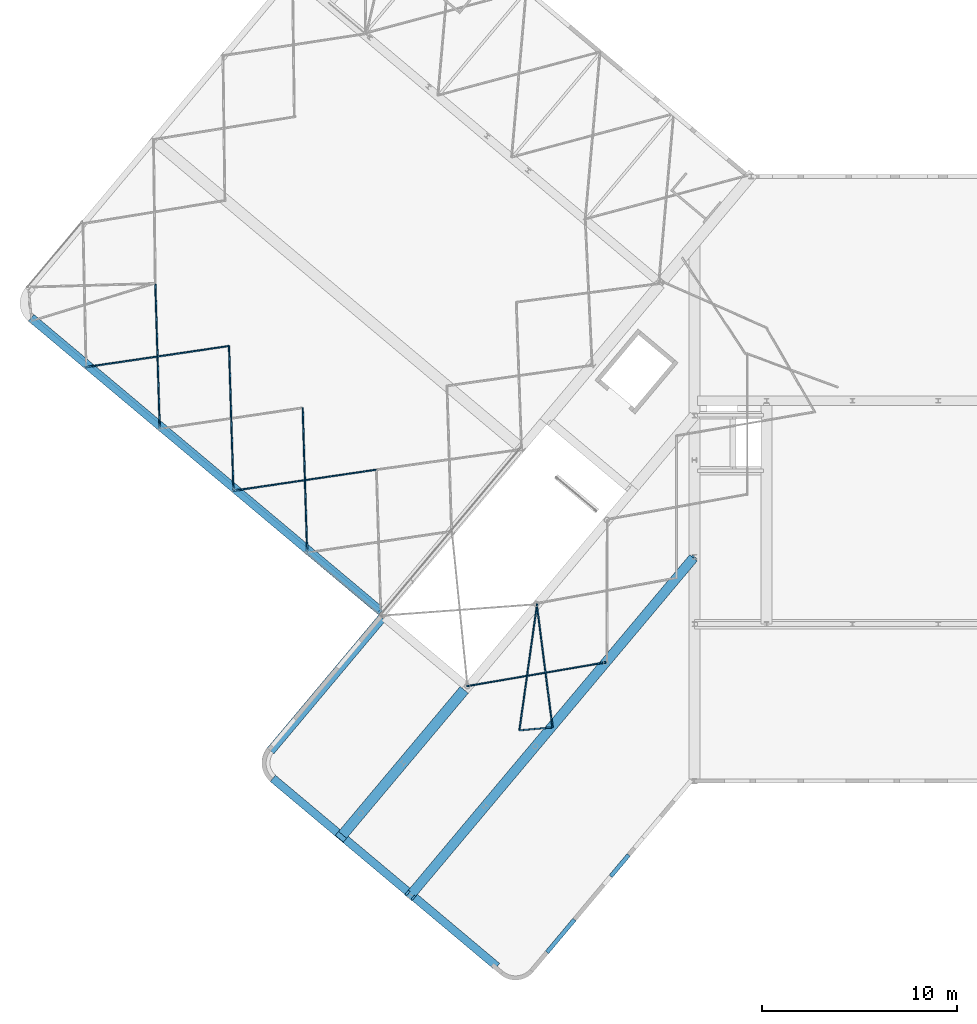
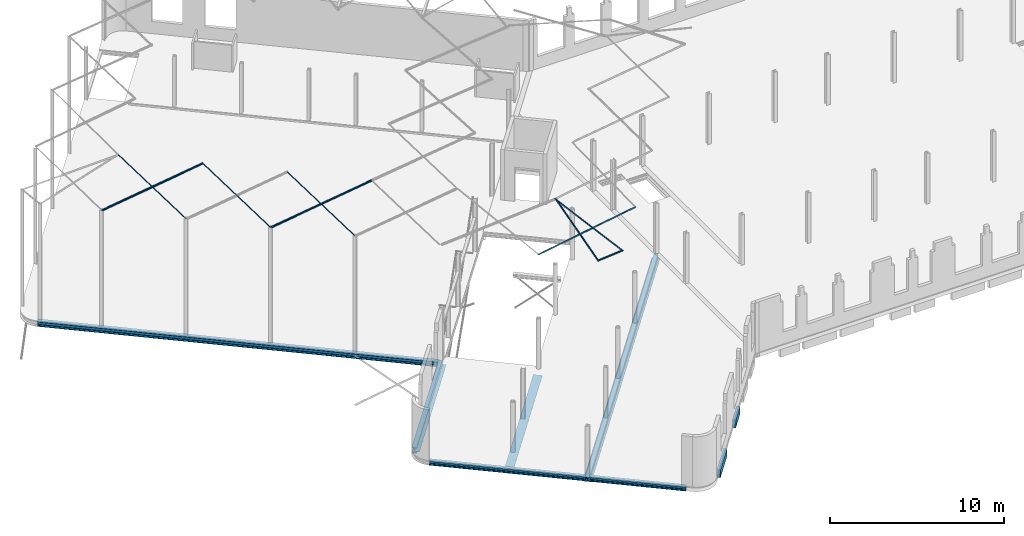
# One storey, part 12 of 25: 23 beams.
"""IFC2X3 building model written with IfcOpenShell, lengths in millimetres."""

import ifcopenshell
import ifcopenshell.guid

model = None  # the IFC model being written
_history = None  # IfcOwnerHistory: only IFC2X3 demands one
_inside = {}  # id of a spatial element -> (the spatial element, [elements in it])
_under = {}  # id of a project, library or spatial element -> (it, [spatial elements below it])
_declared = {}  # id of a project -> (the project, [libraries it declares])
_typed = {}  # id of a type object -> (the type object, [elements of that type])
_made_of = {}  # id of a material, layer set ... -> (it, [elements and type objects made of it])


def new_model(schema):
    """Start an empty IFC model of exactly this schema.

    Asked for "IFC4X3", IfcOpenShell would pick the latest addendum, in which some entities
    have other attributes; the version numbers below select the first issue.
    IFC2X3 requires an IfcOwnerHistory on every rooted entity: one is made here for all.
    """
    global model, _history
    if schema == "IFC4X3":
        model = ifcopenshell.file(schema_version=(4, 3, 0, 0))
    else:
        model = ifcopenshell.file(schema=schema)
    _inside.clear()
    _under.clear()
    _declared.clear()
    _typed.clear()
    _made_of.clear()
    _history = None
    if model.schema == "IFC2X3":
        org = make("IfcOrganization", Name="unknown")
        user = make(
            "IfcPersonAndOrganization",
            ThePerson=make("IfcPerson", FamilyName="unknown"),
            TheOrganization=org,
        )
        app = make(
            "IfcApplication",
            ApplicationDeveloper=org,
            Version="unknown",
            ApplicationFullName="unknown",
            ApplicationIdentifier="unknown",
        )
        _history = make(
            "IfcOwnerHistory",
            OwningUser=user,
            OwningApplication=app,
            ChangeAction="ADDED",
            CreationDate=0,
        )
    return model


def make(cls, **values):
    """One entity of the class cls with the attributes given. An attribute that is None is left unset."""
    return model.create_entity(
        cls, **{name: value for name, value in values.items() if value is not None}
    )


def entity(cls, *values):
    """Any entity or typed value of the class cls, its attributes in the order of the schema. None: left unset."""
    e = model.create_entity(cls)
    for i, value in enumerate(values):
        if value is not None:
            e[i] = value
    return e


def rooted(cls, **values):
    """An entity with a GlobalId (a new one), such as an element, a storey or a relation."""
    return make(cls, GlobalId=ifcopenshell.guid.new(), OwnerHistory=_history, **values)


def si_unit(unit_type, name, prefix=None):
    """IfcSIUnit, for example si_unit("LENGTHUNIT", "METRE", prefix="MILLI")."""
    return make("IfcSIUnit", UnitType=unit_type, Prefix=prefix, Name=name)


def converted_unit(unit_type, name, factor, base, dimensions=None, offset=None):
    """IfcConversionBasedUnit, such as the inch: factor (a typed value) times the base unit."""
    return make(
        "IfcConversionBasedUnit"
        if offset is None
        else "IfcConversionBasedUnitWithOffset",
        ConversionOffset=offset,
        Dimensions=None
        if dimensions is None
        else entity("IfcDimensionalExponents", *dimensions),
        UnitType=unit_type,
        Name=name,
        ConversionFactor=make(
            "IfcMeasureWithUnit", ValueComponent=factor, UnitComponent=base
        ),
    )


def derived_unit(unit_type, elements):
    """IfcDerivedUnit: a product of units, each with its exponent."""
    return make(
        "IfcDerivedUnit",
        Elements=[
            make("IfcDerivedUnitElement", Unit=unit, Exponent=power)
            for unit, power in elements
        ],
        UnitType=unit_type,
    )


def assignment(units):
    """IfcUnitAssignment: the units of a project."""
    return None if units is None else make("IfcUnitAssignment", Units=units)


def point(xyz):
    """IfcCartesianPoint."""
    return None if xyz is None else make("IfcCartesianPoint", Coordinates=xyz)


def direction(xyz):
    """IfcDirection."""
    return None if xyz is None else make("IfcDirection", DirectionRatios=xyz)


def frame(location, z_axis=None, x_axis=None):
    """IfcAxis2Placement3D, a coordinate frame: its origin and axes. An axis left out is left unset."""
    return make(
        "IfcAxis2Placement3D",
        Location=point(location),
        Axis=direction(z_axis),
        RefDirection=direction(x_axis),
    )


def frame_2d(location, x_axis=None):
    """IfcAxis2Placement2D, a coordinate frame in the plane: its origin and x axis."""
    return make(
        "IfcAxis2Placement2D", Location=point(location), RefDirection=direction(x_axis)
    )


def origin():
    """The frame at (0, 0, 0) with its axes left unset."""
    return frame((0.0, 0.0, 0.0))


def origin_2d_with_axis():
    """The frame at (0, 0) in the plane with the x axis (1, 0) written out."""
    return frame_2d((0.0, 0.0), x_axis=(1.0, 0.0))


def place(relative_to, where):
    """IfcLocalPlacement: puts the frame where relative to a parent placement (None: the world)."""
    return make(
        "IfcLocalPlacement", PlacementRelTo=relative_to, RelativePlacement=where
    )


def context(
    kind, dimensions, precision=None, world=None, true_north=None, identifier=None
):
    """IfcGeometricRepresentationContext, for example the 3D "Model" context."""
    return make(
        "IfcGeometricRepresentationContext",
        ContextIdentifier=identifier,
        ContextType=kind,
        CoordinateSpaceDimension=dimensions,
        Precision=precision,
        WorldCoordinateSystem=world,
        TrueNorth=true_north,
    )


def subcontext(parent, identifier, kind, view, scale=None):
    """IfcGeometricRepresentationSubContext, for example "Body" below "Model"."""
    return make(
        "IfcGeometricRepresentationSubContext",
        ContextIdentifier=identifier,
        ContextType=kind,
        ParentContext=parent,
        TargetScale=scale,
        TargetView=view,
    )


def project(units=None, contexts=None):
    """IfcProject with its units and contexts."""
    return rooted(
        "IfcProject",
        Name="project",
        RepresentationContexts=contexts,
        UnitsInContext=assignment(units),
    )


def spatial(cls, under=None, at=None, **own):
    """A site, building, storey or space (cls), placed at a placement, below another one or the project."""
    s = rooted(cls, ObjectPlacement=at, **own)
    if under is not None:
        _under.setdefault(under.id(), (under, []))[1].append(s)
    return s


def polyline(points):
    """IfcPolyline through the points."""
    return make("IfcPolyline", Points=[point(p) for p in points])


def circle_curve(where, radius):
    """IfcCircle in the frame where."""
    return make("IfcCircle", Position=where, Radius=radius)


def parameter(value):
    """IfcParameterValue: where a trimmed curve begins or ends, as a parameter of its basis curve."""
    return model.create_entity("IfcParameterValue", value)


def trimmed(basis, trim1, trim2, sense, master):
    """IfcTrimmedCurve: the piece of a basis curve between two trims."""
    return make(
        "IfcTrimmedCurve",
        BasisCurve=basis,
        Trim1=trim1,
        Trim2=trim2,
        SenseAgreement=sense,
        MasterRepresentation=master,
    )


def segment(curve, same_sense, transition):
    """IfcCompositeCurveSegment."""
    return make(
        "IfcCompositeCurveSegment",
        Transition=transition,
        SameSense=same_sense,
        ParentCurve=curve,
    )


def composite_curve(segments, self_intersect=None):
    """IfcCompositeCurve: segments joined end to end."""
    return make("IfcCompositeCurve", Segments=segments, SelfIntersect=self_intersect)


def profile(cls, at=None, kind="AREA", **sizes):
    """A parametric profile (cls). Its sizes go by their IFC names, for example OverallWidth=200.0."""
    return make(cls, ProfileType=kind, Position=at, **sizes)


def rectangle(**sizes):
    """IfcRectangleProfileDef."""
    return profile("IfcRectangleProfileDef", **sizes)


def i_section(**sizes):
    """IfcIShapeProfileDef."""
    return profile("IfcIShapeProfileDef", **sizes)


def outline(outer, holes=None, kind="AREA"):
    """IfcArbitraryClosedProfileDef: a profile drawn as a closed curve; with holes, ...WithVoids."""
    if holes is None:
        return make("IfcArbitraryClosedProfileDef", ProfileType=kind, OuterCurve=outer)
    return make(
        "IfcArbitraryProfileDefWithVoids",
        ProfileType=kind,
        OuterCurve=outer,
        InnerCurves=holes,
    )


def extrude(swept, where, along, depth):
    """IfcExtrudedAreaSolid: the profile swept, set in the frame where, extruded along a direction by depth."""
    return make(
        "IfcExtrudedAreaSolid",
        SweptArea=swept,
        Position=where,
        ExtrudedDirection=direction(along),
        Depth=depth,
    )


def shape(context_of_items, identifier, shape_type, items):
    """IfcShapeRepresentation: the items that make up one representation, for example the "Body"."""
    return make(
        "IfcShapeRepresentation",
        ContextOfItems=context_of_items,
        RepresentationIdentifier=identifier,
        RepresentationType=shape_type,
        Items=items,
    )


def material(Name=None, Category=None):
    """IfcMaterial."""
    return make("IfcMaterial", Name=Name, Category=Category)


def made_of(thing, what):
    """Note that an element or type object is made of a material, layer set ...; save() writes the relation."""
    if what is not None:
        _made_of.setdefault(what.id(), (what, []))[1].append(thing)
    return thing


def type_object(cls, material=None, **own):
    """A type object (cls), such as IfcWallType, which elements share."""
    return made_of(rooted(cls, **own), material)


def element(
    cls,
    number,
    at=None,
    inside=None,
    cuts=None,
    type_object=None,
    material=None,
    context=None,
    identifier="Body",
    shape_type=None,
    held_by="IfcProductDefinitionShape",
    body=None,
    shapes=None,
    **own,
):
    """One element of the class cls, such as IfcWall. Its Tag is "e" and its number.

    at: its placement. inside: the storey or other place that contains it. cuts: it is an
    opening in that element (IfcRelVoidsElement). A single representation is given by context,
    identifier, shape_type and body (its items); several are given by shapes. held_by: the class
    of the entity that holds the representations. save() writes the other relations.
    """
    e = rooted(cls, Tag="e%d" % number, ObjectPlacement=at, **own)
    if body is not None:
        shapes = [shape(context, identifier, shape_type, body)]
    if shapes is not None:
        e.Representation = make(held_by, Representations=shapes)
    if inside is not None:
        _inside.setdefault(inside.id(), (inside, []))[1].append(e)
    if cuts is not None:
        rooted(
            "IfcRelVoidsElement", RelatingBuildingElement=cuts, RelatedOpeningElement=e
        )
    if type_object is not None:
        _typed.setdefault(type_object.id(), (type_object, []))[1].append(e)
    return made_of(e, material)


def aggregate(whole, parts):
    """IfcRelAggregates: a whole, such as a stair, and the parts it consists of."""
    return rooted("IfcRelAggregates", RelatingObject=whole, RelatedObjects=parts)


def save(model, path):
    """Write the relations noted so far, then the file.

    IfcRelAggregates (storeys below a building ...), IfcRelContainedInSpatialStructure (elements
    in a storey), IfcRelDefinesByType, IfcRelAssociatesMaterial and IfcRelDeclares: one each for
    every whole, place, type object, material and project.
    """
    for whole, parts in _under.values():
        aggregate(whole, parts)
    for where, things in _inside.values():
        rooted(
            "IfcRelContainedInSpatialStructure",
            RelatedElements=things,
            RelatingStructure=where,
        )
    for kind, things in _typed.values():
        rooted("IfcRelDefinesByType", RelatedObjects=things, RelatingType=kind)
    for what, things in _made_of.values():
        rooted("IfcRelAssociatesMaterial", RelatedObjects=things, RelatingMaterial=what)
    for by, libraries in _declared.values():
        rooted("IfcRelDeclares", RelatingContext=by, RelatedDefinitions=libraries)
    model.write(path)


model = new_model("IFC2X3")

# Units and contexts
model_context = context("Model", 3, precision=0.01, world=origin(), true_north=direction((6.123031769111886e-17, 1.0)))
body_context = subcontext(model_context, "Body", "Model", "MODEL_VIEW")
ifc_project = project(units=[si_unit("LENGTHUNIT", "METRE", prefix="MILLI"), si_unit("AREAUNIT", "SQUARE_METRE"), si_unit("VOLUMEUNIT", "CUBIC_METRE"), derived_unit("MASSDENSITYUNIT", [(si_unit("MASSUNIT", "GRAM", prefix="KILO"), 1), (si_unit("LENGTHUNIT", "METRE"), -3)]), si_unit("MASSUNIT", "GRAM", prefix="KILO"), converted_unit("PLANEANGLEUNIT", "DEGREE", entity("IfcPlaneAngleMeasure", 0.017453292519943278), si_unit("PLANEANGLEUNIT", "RADIAN"), dimensions=[0, 0, 0, 0, 0, 0, 0])], contexts=[model_context])

# Site, building, storey
site_placement = place(None, origin())
site = spatial("IfcSite", under=ifc_project, at=site_placement, Name="Default", CompositionType="ELEMENT")
building_placement = place(site_placement, origin())
building = spatial("IfcBuilding", under=site, at=building_placement, Name="AT constructie", CompositionType="ELEMENT")
storey_placement = place(building_placement, frame((0.0, 0.0, 3864.0)))
storey = spatial("IfcBuildingStorey", under=building, at=storey_placement, Name="01 eerste verdieping", CompositionType="ELEMENT", Elevation=3864.0)

# Beams
ifc_material_1 = material(Name="f2_beton_prefab_gen")
beam_type_1 = type_object("IfcBeamType", Name="balk vierkant_gen_214x544 pbl", PredefinedType="NOTDEFINED")
beam_1_placement = place(storey_placement, frame((34959.555795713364, 4468.489880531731, 0.0), z_axis=(0.0, 0.0, 1.0), x_axis=(-0.6427876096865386, -0.7660444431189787, 0.0)))
element("IfcBeam", 1, at=beam_1_placement, inside=storey, type_object=beam_type_1, material=ifc_material_1, Name="NLRS_28_SF_LIB_balk vierkant prefab_gen_AT:balk vierkant_gen_214x544 pbl", ObjectType="NLRS_28_SF_LIB_balk vierkant prefab_gen_AT:balk vierkant_gen_214x544 pbl", context=body_context, shape_type="SweptSolid", body=[
    extrude(rectangle(XDim=544.0000000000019, YDim=213.99999999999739, at=origin_2d_with_axis()), frame((-190.0, -107.0, -642.0), z_axis=(1.0, 0.0, 0.0), x_axis=(0.0, 0.0, -1.0)), (0.0, 0.0, 1.0), 2190.000000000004),
])
beam_2_placement = place(storey_placement, frame((37735.65178527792, 7776.912249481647, 0.0), z_axis=(0.0, 0.0, 1.0), x_axis=(-0.6427876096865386, -0.7660444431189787, 0.0)))
element("IfcBeam", 2, at=beam_2_placement, inside=storey, type_object=beam_type_1, material=ifc_material_1, Name="NLRS_28_SF_LIB_balk vierkant prefab_gen_AT:balk vierkant_gen_214x544 pbl", ObjectType="NLRS_28_SF_LIB_balk vierkant prefab_gen_AT:balk vierkant_gen_214x544 pbl", context=body_context, shape_type="SweptSolid", body=[
    extrude(rectangle(XDim=544.0000000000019, YDim=213.99999999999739, at=frame_2d((0.0, 4.369837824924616e-12), x_axis=(1.0, 0.0))), frame((-190.0, -107.0, -642.0), z_axis=(1.0, 0.0, 0.0), x_axis=(0.0, 0.0, -1.0)), (0.0, 0.0, 1.0), 1430.0000000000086),
])
ifc_material_2 = material(Name="h2_staal_S355")
beam_type_2 = type_object("IfcBeamType", Name="balk strip liggend_gen_500x15", PredefinedType="NOTDEFINED")
beam_3_placement = place(storey_placement, frame((26476.116333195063, 5792.8905509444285, 0.0), z_axis=(0.0, 0.0, 1.0), x_axis=(0.642787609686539, 0.7660444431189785, 0.0)))
element("IfcBeam", 3, at=beam_3_placement, inside=storey, type_object=beam_type_2, material=ifc_material_2, Name="NLRS_28_SF_LIB_balk strip_gen_AT:balk strip liggend_gen_500x15", ObjectType="NLRS_28_SF_LIB_balk strip_gen_AT:balk strip liggend_gen_500x15", context=body_context, shape_type="SweptSolid", body=[
    extrude(rectangle(XDim=14.999999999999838, YDim=499.9999999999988, at=frame_2d((0.0, -2.7000623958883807e-12), x_axis=(1.0, 0.0))), frame((6.095903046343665e-07, 0.0, -377.5000000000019), z_axis=(1.0, 0.0, 0.0), x_axis=(0.0, 0.0, -1.0)), (0.0, 0.0, 1.0), 22745.8620502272),
])
beam_type_3 = type_object("IfcBeamType", Name="balk HE_gen_HEB260", PredefinedType="NOTDEFINED")
beam_4_placement = place(storey_placement, frame((26482.54420929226, 5800.550995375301, 0.0), z_axis=(0.0, 0.0, 1.0), x_axis=(0.642787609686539, 0.7660444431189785, 0.0)))
element("IfcBeam", 4, at=beam_4_placement, inside=storey, type_object=beam_type_3, material=ifc_material_2, Name="NLRS_28_SF_LIB_balk HEB_gen_AT:balk HE_gen_HEB260", ObjectType="NLRS_28_SF_LIB_balk HEB_gen_AT:balk HE_gen_HEB260", context=body_context, shape_type="SweptSolid", body=[
    extrude(i_section(OverallWidth=260.00000000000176, OverallDepth=259.9999999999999, WebThickness=9.999999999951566, FlangeThickness=17.49999999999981, FilletRadius=24.000000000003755, at=frame_2d((2.7000623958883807e-13, -7.773337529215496e-12), x_axis=(0.0, 1.0))), frame((6.095951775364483e-07, 0.0, -240.0), z_axis=(1.0, 0.0, 0.0), x_axis=(0.0, 0.0, -1.0)), (0.0, 0.0, 1.0), 22819.482205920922),
])
beam_5_placement = place(storey_placement, frame((19508.156762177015, 11879.245094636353, 0.0), z_axis=(0.0, 0.0, 1.0), x_axis=(0.7660444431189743, -0.6427876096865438, 0.0)))
element("IfcBeam", 5, at=beam_5_placement, inside=storey, type_object=beam_type_3, material=ifc_material_2, Name="NLRS_28_SF_LIB_balk HEB_gen_AT:balk HE_gen_HEB260", ObjectType="NLRS_28_SF_LIB_balk HEB_gen_AT:balk HE_gen_HEB260", context=body_context, shape_type="SweptSolid", body=[
    extrude(i_section(OverallWidth=259.9999999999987, OverallDepth=259.9999999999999, WebThickness=10.000000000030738, FlangeThickness=17.49999999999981, FilletRadius=23.999999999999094, at=frame_2d((-2.7000623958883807e-13, -8.242295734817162e-13), x_axis=(0.0, 1.0))), frame((0.0, 0.0, -240.0), z_axis=(1.0, 0.0, 0.0), x_axis=(0.0, 0.0, -1.0)), (0.0, 0.0, 1.0), 9119.999998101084),
])
beam_6_placement = place(storey_placement, frame((26708.974526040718, 5837.041564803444, 0.0), z_axis=(0.0, 0.0, 1.0), x_axis=(0.7660444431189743, -0.6427876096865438, 0.0)))
element("IfcBeam", 6, at=beam_6_placement, inside=storey, type_object=beam_type_3, material=ifc_material_2, Name="NLRS_28_SF_LIB_balk HEB_gen_AT:balk HE_gen_HEB260", ObjectType="NLRS_28_SF_LIB_balk HEB_gen_AT:balk HE_gen_HEB260", context=body_context, shape_type="SweptSolid", body=[
    extrude(i_section(OverallWidth=260.0000000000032, OverallDepth=259.9999999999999, WebThickness=10.000000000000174, FlangeThickness=17.49999999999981, FilletRadius=24.000000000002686, at=frame_2d((-2.7000623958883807e-13, 3.0411229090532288e-12), x_axis=(0.0, 1.0))), frame((0.0, 0.0, -240.0), z_axis=(1.0, 0.0, 0.0), x_axis=(0.0, 0.0, -1.0)), (0.0, 0.0, 1.0), 5604.999999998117),
])
beam_type_4 = type_object("IfcBeamType", Name="balk strip liggend_gen_420x15", PredefinedType="NOTDEFINED")
beam_7_placement = place(storey_placement, frame((19540.296143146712, 11917.547316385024, 0.0), z_axis=(0.0, 0.0, 1.0), x_axis=(0.7660444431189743, -0.6427876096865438, 0.0)))
element("IfcBeam", 7, at=beam_7_placement, inside=storey, type_object=beam_type_4, material=ifc_material_2, Name="NLRS_28_SF_LIB_balk strip_gen_AT:balk strip liggend_gen_420x15", ObjectType="NLRS_28_SF_LIB_balk strip_gen_AT:balk strip liggend_gen_420x15", context=body_context, shape_type="SweptSolid", body=[
    extrude(rectangle(XDim=14.99999999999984, YDim=420.00000000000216, at=frame_2d((-5.417888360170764e-13, -6.963318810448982e-13), x_axis=(1.0, 0.0))), frame((0.0, 0.0, -377.50000000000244), z_axis=(1.0, 0.0, 0.0), x_axis=(0.0, 0.0, -1.0)), (0.0, 0.0, 1.0), 4329.999997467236),
])
beam_8_placement = place(storey_placement, frame((26817.71835083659, 5811.065025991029, 0.0), z_axis=(0.0, 0.0, 1.0), x_axis=(0.7660444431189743, -0.6427876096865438, 0.0)))
element("IfcBeam", 8, at=beam_8_placement, inside=storey, type_object=beam_type_4, material=ifc_material_2, Name="NLRS_28_SF_LIB_balk strip_gen_AT:balk strip liggend_gen_420x15", ObjectType="NLRS_28_SF_LIB_balk strip_gen_AT:balk strip liggend_gen_420x15", context=body_context, shape_type="SweptSolid", body=[
    extrude(rectangle(XDim=14.99999999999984, YDim=419.99999999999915, at=frame_2d((-5.413447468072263e-13, 3.979039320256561e-13), x_axis=(1.0, 0.0))), frame((0.0, 0.0, -377.50000000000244), z_axis=(1.0, 0.0, 0.0), x_axis=(0.0, 0.0, -1.0)), (0.0, 0.0, 1.0), 5504.999999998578),
])
beam_9_placement = place(storey_placement, frame((23064.10057955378, 8960.724313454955, 0.0), z_axis=(0.0, 0.0, 1.0), x_axis=(0.7660444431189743, -0.6427876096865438, 0.0)))
element("IfcBeam", 9, at=beam_9_placement, inside=storey, type_object=beam_type_4, material=ifc_material_2, Name="NLRS_28_SF_LIB_balk strip_gen_AT:balk strip liggend_gen_420x15", ObjectType="NLRS_28_SF_LIB_balk strip_gen_AT:balk strip liggend_gen_420x15", context=body_context, shape_type="SweptSolid", body=[
    extrude(rectangle(XDim=14.99999999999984, YDim=419.9999999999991, at=frame_2d((-5.413447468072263e-13, -8.242295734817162e-13), x_axis=(1.0, 0.0))), frame((270.0, 0.0, -377.50000000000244), z_axis=(1.0, 0.0, 0.0), x_axis=(0.0, 0.0, -1.0)), (0.0, 0.0, 1.0), 4129.999999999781),
])
beam_type_5 = type_object("IfcBeamType", Name="balk HE_gen_HEB320", PredefinedType="NOTDEFINED")
beam_10_placement = place(storey_placement, frame((7107.740540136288, 35469.04339525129, 0.0), z_axis=(0.0, 0.0, 1.0), x_axis=(0.7660444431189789, -0.6427876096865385, 0.0)))
element("IfcBeam", 10, at=beam_10_placement, inside=storey, type_object=beam_type_5, material=ifc_material_2, Name="NLRS_28_SF_LIB_balk HEB_gen_AT:balk HE_gen_HEB320", ObjectType="NLRS_28_SF_LIB_balk HEB_gen_AT:balk HE_gen_HEB320", context=body_context, shape_type="SweptSolid", body=[
    extrude(i_section(OverallWidth=299.99999999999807, OverallDepth=319.9999999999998, WebThickness=11.500000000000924, FlangeThickness=20.500000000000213, FilletRadius=27.000000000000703, at=frame_2d((-1.0942358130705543e-12, 4.718003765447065e-12), x_axis=(0.0, 1.0))), frame((0.0, 0.0, -431.0), z_axis=(1.0, 0.0, 0.0), x_axis=(0.0, 0.0, -1.0)), (0.0, 0.0, 1.0), 23437.499999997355),
])
beam_type_6 = type_object("IfcBeamType", Name="balk HE_gen_HEB400", PredefinedType="NOTDEFINED")
beam_11_placement = place(storey_placement, frame((19359.585975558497, 13374.588442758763, 0.0), z_axis=(0.0, 0.0, 1.0), x_axis=(0.642787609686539, 0.7660444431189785, 0.0)))
element("IfcBeam", 11, at=beam_11_placement, inside=storey, type_object=beam_type_6, material=ifc_material_2, Name="NLRS_28_SF_LIB_balk HEB_gen_AT:balk HE_gen_HEB400", ObjectType="NLRS_28_SF_LIB_balk HEB_gen_AT:balk HE_gen_HEB400", context=body_context, shape_type="SweptSolid", body=[
    extrude(i_section(OverallWidth=300.00000000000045, OverallDepth=400.0, WebThickness=13.500000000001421, FlangeThickness=23.999999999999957, FilletRadius=26.99999999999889, at=frame_2d((5.542233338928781e-13, -3.879563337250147e-12), x_axis=(0.0, 1.0))), frame((0.0, 0.0, -310.0), z_axis=(1.0, 0.0, 0.0), x_axis=(0.0, 0.0, -1.0)), (0.0, 0.0, 1.0), 8899.99999780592),
])
beam_type_7 = type_object("IfcBeamType", Name="balk strip liggend_gen_300x15", PredefinedType="NOTDEFINED")
beam_12_placement = place(storey_placement, frame((19479.663442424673, 13273.831485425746, 0.0), z_axis=(0.0, 0.0, 1.0), x_axis=(0.642787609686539, 0.7660444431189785, 0.0)))
element("IfcBeam", 12, at=beam_12_placement, inside=storey, type_object=beam_type_7, material=ifc_material_2, Name="NLRS_28_SF_LIB_balk strip_gen_AT:balk strip liggend_gen_300x15", ObjectType="NLRS_28_SF_LIB_balk strip_gen_AT:balk strip liggend_gen_300x15", context=body_context, shape_type="SweptSolid", body=[
    extrude(rectangle(XDim=14.999999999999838, YDim=299.9999999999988, at=origin_2d_with_axis()), frame((0.0, 0.0, -377.5000000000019), z_axis=(1.0, 0.0, 0.0), x_axis=(0.0, 0.0, -1.0)), (0.0, 0.0, 1.0), 8899.999997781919),
])
beam_type_8 = type_object("IfcBeamType", Name="balk strip liggend_gen_440x20", PredefinedType="NOTDEFINED")
beam_13_placement = place(storey_placement, frame((7152.735672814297, 35522.66650626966, 0.0), z_axis=(0.0, 0.0, 1.0), x_axis=(0.7660444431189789, -0.6427876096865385, 0.0)))
element("IfcBeam", 13, at=beam_13_placement, inside=storey, type_object=beam_type_8, material=ifc_material_2, Name="NLRS_28_SF_LIB_balk strip_gen_AT:balk strip liggend_gen_440x20", ObjectType="NLRS_28_SF_LIB_balk strip_gen_AT:balk strip liggend_gen_440x20", context=body_context, shape_type="SweptSolid", body=[
    extrude(rectangle(XDim=19.999999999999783, YDim=439.99999999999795, at=frame_2d((0.0, 2.3447910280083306e-12), x_axis=(1.0, 0.0))), frame((0.0, 0.0, -601.0), z_axis=(1.0, 0.0, 0.0), x_axis=(0.0, 0.0, -1.0)), (0.0, 0.0, 1.0), 23317.499999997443),
])
beam_type_9 = type_object("IfcBeamType", Name="balk strip liggend_gen_540x15", PredefinedType="NOTDEFINED")
beam_14_placement = place(storey_placement, frame((22929.115181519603, 8799.854980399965, 0.0), z_axis=(0.0, 0.0, 1.0), x_axis=(0.642787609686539, 0.7660444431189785, 0.0)))
element("IfcBeam", 14, at=beam_14_placement, inside=storey, type_object=beam_type_9, material=ifc_material_2, Name="NLRS_28_SF_LIB_balk strip_gen_AT:balk strip liggend_gen_540x15", ObjectType="NLRS_28_SF_LIB_balk strip_gen_AT:balk strip liggend_gen_540x15", context=body_context, shape_type="SweptSolid", body=[
    extrude(rectangle(XDim=14.999999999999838, YDim=540.0000000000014, at=origin_2d_with_axis()), frame((0.0, 0.0, -377.5000000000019), z_axis=(1.0, 0.0, 0.0), x_axis=(0.0, 0.0, -1.0)), (0.0, 0.0, 1.0), 9989.999999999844),
])
beam_type_10 = type_object("IfcBeamType", Name="balk_gen_K80x80x4", PredefinedType="NOTDEFINED")
beam_15_placement = place(storey_placement, frame((33857.40122837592, 14528.11225157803, 8019.8426642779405), z_axis=(-0.011293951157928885, -0.0010147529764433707, 0.9999357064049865), x_axis=(-0.9959237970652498, -0.08948300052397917, -0.011339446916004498)))
element("IfcBeam", 15, at=beam_15_placement, inside=storey, type_object=beam_type_10, material=ifc_material_2, Name="NLRS_28_SF_LIB_balk koker vierkant_gen_AT:balk_gen_K80x80x4", ObjectType="NLRS_28_SF_LIB_balk koker vierkant_gen_AT:balk_gen_K80x80x4", context=body_context, shape_type="SweptSolid", body=[
    extrude(outline(composite_curve([segment(polyline([(-31.0, -40.0), (31.0, -40.0)]), True, "CONTINUOUS"), segment(trimmed(circle_curve(frame_2d((31.0, -31.0), x_axis=(0.0, -1.0)), 9.0), [parameter(359.9999999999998)], [parameter(89.99999999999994)], True, "PARAMETER"), True, "CONTINUOUS"), segment(polyline([(40.0, -31.0), (40.0, 31.0)]), True, "CONTINUOUS"), segment(trimmed(circle_curve(frame_2d((31.0, 31.0), x_axis=(0.0, -1.0)), 9.0), [parameter(90.0000000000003)], [parameter(180.00000000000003)], True, "PARAMETER"), True, "CONTINUOUS"), segment(polyline([(31.0, 40.0), (-31.0, 40.0)]), True, "CONTINUOUS"), segment(trimmed(circle_curve(frame_2d((-31.0, 31.0), x_axis=(0.0, -1.0)), 9.0), [parameter(179.99999999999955)], [parameter(269.9999999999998)], True, "PARAMETER"), True, "CONTINUOUS"), segment(polyline([(-40.0, 31.0), (-40.0, -31.0)]), True, "CONTINUOUS"), segment(trimmed(circle_curve(frame_2d((-31.0, -31.0), x_axis=(0.0, -1.0)), 9.0), [parameter(270.0000000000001)], [parameter(1.0177774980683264e-13)], True, "PARAMETER"), True, "CONTINUOUS")], self_intersect=False), holes=[composite_curve([segment(trimmed(circle_curve(frame_2d((-31.0, 31.0), x_axis=(0.0, -1.0)), 5.0), [parameter(180.0000000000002)], [parameter(270.0000000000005)], True, "PARAMETER"), False, "CONTINUOUS"), segment(polyline([(-31.0, 36.0), (31.0, 36.0)]), True, "CONTINUOUS"), segment(trimmed(circle_curve(frame_2d((31.0, 31.0), x_axis=(0.0, -1.0)), 5.0), [parameter(90.0000000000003)], [parameter(179.99999999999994)], True, "PARAMETER"), False, "CONTINUOUS"), segment(polyline([(36.0, 31.0), (36.0, -31.0)]), True, "CONTINUOUS"), segment(trimmed(circle_curve(frame_2d((31.0, -31.0), x_axis=(0.0, -1.0)), 5.0), [parameter(2.0355549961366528e-13)], [parameter(90.00000000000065)], True, "PARAMETER"), False, "CONTINUOUS"), segment(polyline([(31.0, -36.0), (-31.0, -36.0)]), True, "CONTINUOUS"), segment(trimmed(circle_curve(frame_2d((-31.0, -31.0), x_axis=(0.0, -1.0)), 5.0), [parameter(269.99999999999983)], [parameter(1.5266662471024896e-13)], True, "PARAMETER"), False, "CONTINUOUS"), segment(polyline([(-36.0, -31.0), (-36.0, 31.0)]), True, "CONTINUOUS")], self_intersect=False)]), frame((0.0, -0.6771440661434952, -59.996178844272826), z_axis=(1.0, 0.0, 0.0), x_axis=(0.0, -0.01128573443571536, -0.9999363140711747)), (0.0, 0.0, 1.0), 1717.4571688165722),
])
beam_type_11 = type_object("IfcBeamType", Name="balk_gen_L70x70x7", PredefinedType="NOTDEFINED")
beam_16_placement = place(storey_placement, frame((13715.892025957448, 29852.316780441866, 8000.519610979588), z_axis=(0.0003661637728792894, -0.011928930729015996, 0.9999287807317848), x_axis=(-0.030678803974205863, 0.999458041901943, 0.011934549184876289)))
element("IfcBeam", 16, at=beam_16_placement, inside=storey, type_object=beam_type_11, material=ifc_material_2, Name="NLRS_28_SF_LIB_balk hoeklijn_gen_AT:balk_gen_L70x70x7", ObjectType="NLRS_28_SF_LIB_balk hoeklijn_gen_AT:balk_gen_L70x70x7", context=body_context, shape_type="SweptSolid", body=[
    extrude(outline(composite_curve([segment(polyline([(-26.444444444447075, -26.444444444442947), (43.55555555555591, -26.444444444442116)]), True, "CONTINUOUS"), segment(polyline([(43.55555555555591, -26.444444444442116), (43.55555555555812, -23.944444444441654)]), True, "CONTINUOUS"), segment(trimmed(circle_curve(frame_2d((39.05555555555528, -23.944444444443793), x_axis=(1.0, 0.0)), 4.500000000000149), [parameter(0.0)], [parameter(89.99999999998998)], True, "PARAMETER"), True, "CONTINUOUS"), segment(polyline([(39.05555555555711, -19.444444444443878), (-10.444444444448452, -19.44444444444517)]), True, "CONTINUOUS"), segment(trimmed(circle_curve(frame_2d((-10.44444444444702, -10.44444444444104), x_axis=(0.0, -1.0)), 9.000000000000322), [parameter(270.00000000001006)], [parameter(0.0)], True, "PARAMETER"), False, "CONTINUOUS"), segment(polyline([(-19.444444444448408, -10.444444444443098), (-19.44444444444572, 39.05555555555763)]), True, "CONTINUOUS"), segment(trimmed(circle_curve(frame_2d((-23.944444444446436, 39.055555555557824), x_axis=(1.0, 0.0)), 4.5000000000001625), [parameter(0.0)], [parameter(89.99999999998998)], True, "PARAMETER"), True, "CONTINUOUS"), segment(polyline([(-23.944444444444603, 43.55555555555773), (-26.44444444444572, 43.55555555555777)]), True, "CONTINUOUS"), segment(polyline([(-26.44444444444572, 43.55555555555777), (-26.444444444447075, -26.444444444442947)]), True, "CONTINUOUS")], self_intersect=False)), frame((0.0, -20.120489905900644, -63.34477837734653), z_axis=(1.0, 0.0, 0.0), x_axis=(0.0, 0.010654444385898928, 0.9999432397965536)), (0.0, 0.0, 1.0), 7403.062975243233),
])
beam_17_placement = place(storey_placement, frame((9939.292921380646, 33021.25969619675, 8000.519610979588), z_axis=(-0.011831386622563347, -0.0017413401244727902, 0.9999284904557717), x_axis=(0.989271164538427, 0.14560064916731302, 0.011958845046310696)))
element("IfcBeam", 17, at=beam_17_placement, inside=storey, type_object=beam_type_11, material=ifc_material_2, Name="NLRS_28_SF_LIB_balk hoeklijn_gen_AT:balk_gen_L70x70x7", ObjectType="NLRS_28_SF_LIB_balk hoeklijn_gen_AT:balk_gen_L70x70x7", context=body_context, shape_type="SweptSolid", body=[
    extrude(outline(composite_curve([segment(polyline([(-26.444444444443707, -26.444444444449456), (43.55555555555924, -26.444444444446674)]), True, "CONTINUOUS"), segment(polyline([(43.55555555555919, -26.444444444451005), (43.55555555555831, -23.944444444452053)]), True, "CONTINUOUS"), segment(trimmed(circle_curve(frame_2d((39.05555555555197, -23.944444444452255), x_axis=(1.0, 0.0)), 4.500000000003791), [parameter(0.0)], [parameter(89.99999999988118)], True, "PARAMETER"), True, "CONTINUOUS"), segment(polyline([(39.05555555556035, -19.444444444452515), (-10.444444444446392, -19.44444444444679)]), True, "CONTINUOUS"), segment(trimmed(circle_curve(frame_2d((-10.444444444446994, -10.444444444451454), x_axis=(0.0, -1.0)), 8.999999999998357), [parameter(269.99999999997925)], [parameter(0.0)], True, "PARAMETER"), False, "CONTINUOUS"), segment(polyline([(-19.444444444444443, -10.444444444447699), (-19.444444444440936, 39.05555555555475)]), True, "CONTINUOUS"), segment(trimmed(circle_curve(frame_2d((-23.944444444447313, 39.0555555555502), x_axis=(1.0, 0.0)), 4.500000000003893), [parameter(0.0)], [parameter(89.99999999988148)], True, "PARAMETER"), True, "CONTINUOUS"), segment(polyline([(-23.944444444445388, 43.55555555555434), (-26.444444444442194, 43.55555555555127)]), True, "CONTINUOUS"), segment(polyline([(-26.444444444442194, 43.55555555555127), (-26.444444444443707, -26.444444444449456)]), True, "CONTINUOUS")], self_intersect=False)), frame((0.0, -18.767930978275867, -63.7586059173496), z_axis=(1.0, 0.0, 0.0), x_axis=(0.0, -0.010627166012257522, 0.9999435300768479)), (0.0, 0.0, 1.0), 7422.067704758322),
])
beam_18_placement = place(storey_placement, frame((17492.491130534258, 26683.373864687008, 8000.519610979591), z_axis=(0.0003661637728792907, -0.011928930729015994, 0.9999287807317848), x_axis=(-0.030678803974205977, 0.999458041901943, 0.011934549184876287)))
element("IfcBeam", 18, at=beam_18_placement, inside=storey, type_object=beam_type_11, material=ifc_material_2, Name="NLRS_28_SF_LIB_balk hoeklijn_gen_AT:balk_gen_L70x70x7", ObjectType="NLRS_28_SF_LIB_balk hoeklijn_gen_AT:balk_gen_L70x70x7", context=body_context, shape_type="SweptSolid", body=[
    extrude(outline(composite_curve([segment(polyline([(-26.444444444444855, -26.44444444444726), (43.555555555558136, -26.444444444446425)]), True, "CONTINUOUS"), segment(polyline([(43.555555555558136, -26.444444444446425), (43.555555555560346, -23.944444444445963)]), True, "CONTINUOUS"), segment(trimmed(circle_curve(frame_2d((39.0555555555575, -23.944444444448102), x_axis=(1.0, 0.0)), 4.500000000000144), [parameter(0.0)], [parameter(89.99999999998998)], True, "PARAMETER"), True, "CONTINUOUS"), segment(polyline([(39.055555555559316, -19.44444444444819), (-10.444444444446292, -19.44444444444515)]), True, "CONTINUOUS"), segment(trimmed(circle_curve(frame_2d((-10.444444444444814, -10.444444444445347), x_axis=(0.0, -1.0)), 9.000000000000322), [parameter(270.00000000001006)], [parameter(0.0)], True, "PARAMETER"), False, "CONTINUOUS"), segment(polyline([(-19.444444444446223, -10.444444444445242), (-19.44444444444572, 39.05555555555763)]), True, "CONTINUOUS"), segment(trimmed(circle_curve(frame_2d((-23.944444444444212, 39.055555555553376), x_axis=(1.0, 0.0)), 4.500000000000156), [parameter(0.0)], [parameter(89.99999999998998)], True, "PARAMETER"), True, "CONTINUOUS"), segment(polyline([(-23.944444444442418, 43.55555555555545), (-26.444444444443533, 43.555555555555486)]), True, "CONTINUOUS"), segment(polyline([(-26.444444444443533, 43.555555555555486), (-26.444444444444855, -26.44444444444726)]), True, "CONTINUOUS")], self_intersect=False)), frame((0.0, -20.120489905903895, -63.34477837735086), z_axis=(1.0, 0.0, 0.0), x_axis=(0.0, 0.01065444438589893, 0.9999432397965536)), (0.0, 0.0, 1.0), 7403.062975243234),
])
beam_19_placement = place(storey_placement, frame((21269.09023511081, 23514.430948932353, 8000.5196109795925), z_axis=(0.000366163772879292, -0.011928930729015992, 0.9999287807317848), x_axis=(-0.030678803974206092, 0.999458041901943, 0.011934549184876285)))
element("IfcBeam", 19, at=beam_19_placement, inside=storey, type_object=beam_type_11, material=ifc_material_2, Name="NLRS_28_SF_LIB_balk hoeklijn_gen_AT:balk_gen_L70x70x7", ObjectType="NLRS_28_SF_LIB_balk hoeklijn_gen_AT:balk_gen_L70x70x7", context=body_context, shape_type="SweptSolid", body=[
    extrude(outline(composite_curve([segment(polyline([(-26.444444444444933, -26.444444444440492), (43.55555555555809, -26.444444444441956)]), True, "CONTINUOUS"), segment(polyline([(43.555555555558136, -26.444444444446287), (43.55555555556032, -23.94444444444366)]), True, "CONTINUOUS"), segment(trimmed(circle_curve(frame_2d((39.05555555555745, -23.944444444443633), x_axis=(1.0, 0.0)), 4.4999999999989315), [parameter(0.0)], [parameter(89.99999999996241)], True, "PARAMETER"), True, "CONTINUOUS"), segment(polyline([(39.055555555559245, -19.444444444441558), (-10.444444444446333, -19.44444444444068)]), True, "CONTINUOUS"), segment(trimmed(circle_curve(frame_2d((-10.444444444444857, -10.444444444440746), x_axis=(0.0, -1.0)), 9.000000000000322), [parameter(270.00000000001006)], [parameter(0.0)], True, "PARAMETER"), False, "CONTINUOUS"), segment(polyline([(-19.444444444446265, -10.44444444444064), (-19.4444444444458, 39.055555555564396)]), True, "CONTINUOUS"), segment(trimmed(circle_curve(frame_2d((-23.9444444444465, 39.05555555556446), x_axis=(1.0, 0.0)), 4.500000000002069), [parameter(0.0)], [parameter(89.99999999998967)], True, "PARAMETER"), True, "CONTINUOUS"), segment(polyline([(-23.944444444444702, 43.55555555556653), (-26.444444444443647, 43.555555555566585)]), True, "CONTINUOUS"), segment(polyline([(-26.444444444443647, 43.555555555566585), (-26.44444444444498, -26.44444444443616)]), True, "CONTINUOUS")], self_intersect=False)), frame((0.0, -20.120489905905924, -63.344778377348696), z_axis=(1.0, 0.0, 0.0), x_axis=(0.0, 0.010654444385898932, 0.9999432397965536)), (0.0, 0.0, 1.0), 7403.062975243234),
])
beam_20_placement = place(storey_placement, frame((17492.49113053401, 26683.37386468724, 8000.5196109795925), z_axis=(-0.01183138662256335, -0.0017413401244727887, 0.9999284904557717), x_axis=(0.989271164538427, 0.14560064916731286, 0.0119588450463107)))
element("IfcBeam", 20, at=beam_20_placement, inside=storey, type_object=beam_type_11, material=ifc_material_2, Name="NLRS_28_SF_LIB_balk hoeklijn_gen_AT:balk_gen_L70x70x7", ObjectType="NLRS_28_SF_LIB_balk hoeklijn_gen_AT:balk_gen_L70x70x7", context=body_context, shape_type="SweptSolid", body=[
    extrude(outline(composite_curve([segment(polyline([(-26.444444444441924, -26.444444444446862), (43.55555555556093, -26.44444444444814)]), True, "CONTINUOUS"), segment(polyline([(43.55555555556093, -26.44444444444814), (43.55555555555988, -23.944444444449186)]), True, "CONTINUOUS"), segment(trimmed(circle_curve(frame_2d((39.055555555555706, -23.944444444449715), x_axis=(1.0, 0.0)), 4.500000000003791), [parameter(0.0)], [parameter(89.99999999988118)], True, "PARAMETER"), True, "CONTINUOUS"), segment(polyline([(39.055555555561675, -19.444444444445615), (-10.444444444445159, -19.44444444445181)]), True, "CONTINUOUS"), segment(trimmed(circle_curve(frame_2d((-10.444444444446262, -10.44444444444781), x_axis=(0.0, -1.0)), 8.999999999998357), [parameter(269.99999999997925)], [parameter(0.0)], True, "PARAMETER"), False, "CONTINUOUS"), segment(polyline([(-19.444444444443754, -10.444444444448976), (-19.44444444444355, 39.05555555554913)]), True, "CONTINUOUS"), segment(trimmed(circle_curve(frame_2d((-23.944444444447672, 39.05555555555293), x_axis=(1.0, 0.0)), 4.500000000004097), [parameter(0.0)], [parameter(89.99999999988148)], True, "PARAMETER"), True, "CONTINUOUS"), segment(polyline([(-23.944444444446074, 43.55555555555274), (-26.44444444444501, 43.555555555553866)]), True, "CONTINUOUS"), segment(polyline([(-26.44444444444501, 43.555555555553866), (-26.444444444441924, -26.444444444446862)]), True, "CONTINUOUS")], self_intersect=False)), frame((0.0, -18.767930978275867, -63.7586059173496), z_axis=(1.0, 0.0, 0.0), x_axis=(0.0, -0.010627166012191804, 0.9999435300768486)), (0.0, 0.0, 1.0), 7422.067704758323),
])
beam_21_placement = place(storey_placement, frame((33846.10741180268, 14529.432181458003, 8019.7426898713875), z_axis=(0.001377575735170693, -0.010763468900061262, 0.9999411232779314), x_axis=(-0.12694321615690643, 0.9918506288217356, 0.010851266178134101)))
element("IfcBeam", 21, at=beam_21_placement, inside=storey, type_object=beam_type_11, material=ifc_material_2, Name="NLRS_28_SF_LIB_balk hoeklijn_gen_AT:balk_gen_L70x70x7", ObjectType="NLRS_28_SF_LIB_balk hoeklijn_gen_AT:balk_gen_L70x70x7", context=body_context, shape_type="SweptSolid", body=[
    extrude(outline(composite_curve([segment(polyline([(-26.444444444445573, -26.444444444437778), (43.55555555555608, -26.444444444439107)]), True, "CONTINUOUS"), segment(polyline([(43.55555555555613, -26.444444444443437), (43.55555555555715, -23.944444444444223)]), True, "CONTINUOUS"), segment(trimmed(circle_curve(frame_2d((39.05555555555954, -23.944444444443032), x_axis=(1.0, 0.0)), 4.499999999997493), [parameter(0.0)], [parameter(90.00000000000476)], True, "PARAMETER"), True, "CONTINUOUS"), segment(polyline([(39.05555555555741, -19.444444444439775), (-10.444444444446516, -19.444444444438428)]), True, "CONTINUOUS"), segment(trimmed(circle_curve(frame_2d((-10.444444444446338, -10.444444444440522), x_axis=(0.0, -1.0)), 9.00000000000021), [parameter(270.00000000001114)], [parameter(0.0)], True, "PARAMETER"), False, "CONTINUOUS"), segment(polyline([(-19.444444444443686, -10.444444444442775), (-19.444444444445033, 39.055555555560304)]), True, "CONTINUOUS"), segment(trimmed(circle_curve(frame_2d((-23.944444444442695, 39.05555555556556), x_axis=(1.0, 0.0)), 4.499999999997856), [parameter(0.0)], [parameter(90.00000000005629)], True, "PARAMETER"), True, "CONTINUOUS"), segment(polyline([(-23.944444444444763, 43.55555555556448), (-26.444444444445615, 43.55555555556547)]), True, "CONTINUOUS"), segment(polyline([(-26.444444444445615, 43.55555555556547), (-26.444444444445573, -26.444444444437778)]), True, "CONTINUOUS")], self_intersect=False)), frame((0.0, -20.190252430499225, -63.322577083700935), z_axis=(1.0, 0.0, 0.0), x_axis=(0.0, 0.011755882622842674, 0.9999308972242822)), (0.0, 0.0, 1.0), 6378.346001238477),
])
beam_22_placement = place(storey_placement, frame((36623.34450764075, 17839.214467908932, 8088.872512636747), z_axis=(-0.012032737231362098, -0.002065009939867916, 0.9999254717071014), x_axis=(-0.9855180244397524, -0.16913063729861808, -0.012208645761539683)))
element("IfcBeam", 22, at=beam_22_placement, inside=storey, type_object=beam_type_11, material=ifc_material_2, Name="NLRS_28_SF_LIB_balk hoeklijn_gen_AT:balk_gen_L70x70x7", ObjectType="NLRS_28_SF_LIB_balk hoeklijn_gen_AT:balk_gen_L70x70x7", context=body_context, shape_type="SweptSolid", body=[
    extrude(outline(composite_curve([segment(polyline([(-26.44444444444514, -26.444444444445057), (43.55555555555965, -26.444444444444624)]), True, "CONTINUOUS"), segment(polyline([(43.55555555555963, -26.44444444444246), (43.55555555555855, -23.944444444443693)]), True, "CONTINUOUS"), segment(trimmed(circle_curve(frame_2d((39.055555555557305, -23.944444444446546), x_axis=(1.0, 0.0)), 4.500000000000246), [parameter(0.0)], [parameter(89.99999999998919)], True, "PARAMETER"), True, "CONTINUOUS"), segment(polyline([(39.05555555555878, -19.444444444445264), (-10.44444444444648, -19.44444444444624)]), True, "CONTINUOUS"), segment(trimmed(circle_curve(frame_2d((-10.44444444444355, -10.444444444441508), x_axis=(0.0, -1.0)), 9.000000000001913), [parameter(270.0000000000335)], [parameter(0.0)], True, "PARAMETER"), False, "CONTINUOUS"), segment(polyline([(-19.444444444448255, -10.444444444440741), (-19.444444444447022, 39.05555555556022)]), True, "CONTINUOUS"), segment(trimmed(circle_curve(frame_2d((-23.94444444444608, 39.055555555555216), x_axis=(1.0, 0.0)), 4.499999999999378), [parameter(0.0)], [parameter(89.99999999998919)], True, "PARAMETER"), True, "CONTINUOUS"), segment(polyline([(-23.94444444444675, 43.555555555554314), (-26.444444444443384, 43.55555555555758)]), True, "CONTINUOUS"), segment(polyline([(-26.444444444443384, 43.55555555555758), (-26.44444444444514, -26.444444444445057)]), True, "CONTINUOUS")], self_intersect=False)), frame((0.0, -20.10051971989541, -63.351118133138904), z_axis=(1.0, 0.0, 0.0), x_axis=(0.0, 0.01033921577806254, 0.9999465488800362)), (0.0, 0.0, 1.0), 7236.912544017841),
])
beam_23_placement = place(storey_placement, frame((32146.94476351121, 14374.429030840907, 8000.367649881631), z_axis=(-0.0018818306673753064, -0.013432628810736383, 0.9999080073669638), x_axis=(0.1387263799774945, 0.9902378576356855, 0.013563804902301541)))
element("IfcBeam", 23, at=beam_23_placement, inside=storey, type_object=beam_type_11, material=ifc_material_2, Name="NLRS_28_SF_LIB_balk hoeklijn_gen_AT:balk_gen_L70x70x7", ObjectType="NLRS_28_SF_LIB_balk hoeklijn_gen_AT:balk_gen_L70x70x7", context=body_context, shape_type="SweptSolid", body=[
    extrude(outline(composite_curve([segment(polyline([(-26.44444444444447, -26.44444444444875), (43.55555555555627, -26.444444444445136)]), True, "CONTINUOUS"), segment(polyline([(43.5555555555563, -26.444444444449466), (43.555555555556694, -23.94444444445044)]), True, "CONTINUOUS"), segment(trimmed(circle_curve(frame_2d((39.055555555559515, -23.944444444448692), x_axis=(1.0, 0.0)), 4.499999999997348), [parameter(0.0)], [parameter(89.99999999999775)], True, "PARAMETER"), True, "CONTINUOUS"), segment(polyline([(39.05555555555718, -19.444444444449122), (-10.44444444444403, -19.444444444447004)]), True, "CONTINUOUS"), segment(trimmed(circle_curve(frame_2d((-10.44444444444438, -10.44444444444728), x_axis=(0.0, -1.0)), 9.000000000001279), [parameter(270.0000000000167)], [parameter(0.0)], True, "PARAMETER"), False, "CONTINUOUS"), segment(polyline([(-19.444444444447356, -10.4444444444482), (-19.444444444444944, 39.05555555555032)]), True, "CONTINUOUS"), segment(trimmed(circle_curve(frame_2d((-23.94444444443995, 39.05555555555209), x_axis=(1.0, 0.0)), 4.49999999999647), [parameter(0.0)], [parameter(90.00000000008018)], True, "PARAMETER"), True, "CONTINUOUS"), segment(polyline([(-23.944444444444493, 43.55555555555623), (-26.444444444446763, 43.55555555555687)]), True, "CONTINUOUS"), segment(polyline([(-26.444444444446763, 43.55555555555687), (-26.44444444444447, -26.44444444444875)]), True, "CONTINUOUS")], self_intersect=False)), frame((0.0, -19.982922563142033, -63.38831018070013), z_axis=(1.0, 0.0, 0.0), x_axis=(0.0, 0.008483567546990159, 0.9999640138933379)), (0.0, 0.0, 1.0), 6547.433531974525),
])

save(model, "model.ifc")
